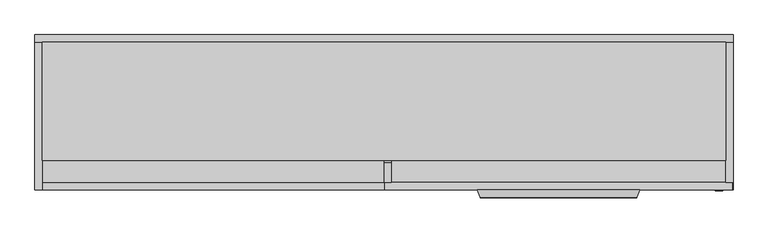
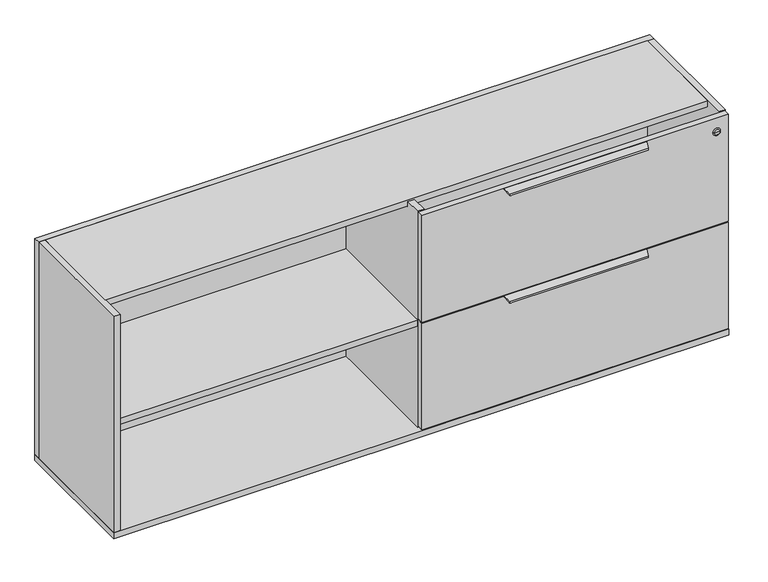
"""IFC4 building model written with IfcOpenShell, lengths in millimetres: furniture geometry, Haworth_BeHold_Modular_AttachedCredenza_StorageEnd : 2H - 72w - 36w Open - Proud Back."""

import ifcopenshell
import ifcopenshell.guid

model = None  # the IFC model being written
_history = None  # IfcOwnerHistory: only IFC2X3 demands one
_inside = {}  # id of a spatial element -> (the spatial element, [elements in it])
_under = {}  # id of a project, library or spatial element -> (it, [spatial elements below it])
_declared = {}  # id of a project -> (the project, [libraries it declares])
_typed = {}  # id of a type object -> (the type object, [elements of that type])
_made_of = {}  # id of a material, layer set ... -> (it, [elements and type objects made of it])


def new_model(schema):
    """Start an empty IFC model of exactly this schema.

    Asked for "IFC4X3", IfcOpenShell would pick the latest addendum, in which some entities
    have other attributes; the version numbers below select the first issue.
    IFC2X3 requires an IfcOwnerHistory on every rooted entity: one is made here for all.
    """
    global model, _history
    if schema == "IFC4X3":
        model = ifcopenshell.file(schema_version=(4, 3, 0, 0))
    else:
        model = ifcopenshell.file(schema=schema)
    _inside.clear()
    _under.clear()
    _declared.clear()
    _typed.clear()
    _made_of.clear()
    _history = None
    if model.schema == "IFC2X3":
        org = make("IfcOrganization", Name="unknown")
        user = make(
            "IfcPersonAndOrganization",
            ThePerson=make("IfcPerson", FamilyName="unknown"),
            TheOrganization=org,
        )
        app = make(
            "IfcApplication",
            ApplicationDeveloper=org,
            Version="unknown",
            ApplicationFullName="unknown",
            ApplicationIdentifier="unknown",
        )
        _history = make(
            "IfcOwnerHistory",
            OwningUser=user,
            OwningApplication=app,
            ChangeAction="ADDED",
            CreationDate=0,
        )
    return model


def make(cls, **values):
    """One entity of the class cls with the attributes given. An attribute that is None is left unset."""
    return model.create_entity(
        cls, **{name: value for name, value in values.items() if value is not None}
    )


def rooted(cls, **values):
    """An entity with a GlobalId (a new one), such as an element, a storey or a relation."""
    return make(cls, GlobalId=ifcopenshell.guid.new(), OwnerHistory=_history, **values)


def si_unit(unit_type, name, prefix=None):
    """IfcSIUnit, for example si_unit("LENGTHUNIT", "METRE", prefix="MILLI")."""
    return make("IfcSIUnit", UnitType=unit_type, Prefix=prefix, Name=name)


def assignment(units):
    """IfcUnitAssignment: the units of a project."""
    return None if units is None else make("IfcUnitAssignment", Units=units)


def point(xyz):
    """IfcCartesianPoint."""
    return None if xyz is None else make("IfcCartesianPoint", Coordinates=xyz)


def direction(xyz):
    """IfcDirection."""
    return None if xyz is None else make("IfcDirection", DirectionRatios=xyz)


def frame(location, z_axis=None, x_axis=None):
    """IfcAxis2Placement3D, a coordinate frame: its origin and axes. An axis left out is left unset."""
    return make(
        "IfcAxis2Placement3D",
        Location=point(location),
        Axis=direction(z_axis),
        RefDirection=direction(x_axis),
    )


def frame_2d(location, x_axis=None):
    """IfcAxis2Placement2D, a coordinate frame in the plane: its origin and x axis."""
    return make(
        "IfcAxis2Placement2D", Location=point(location), RefDirection=direction(x_axis)
    )


def origin():
    """The frame at (0, 0, 0) with its axes left unset."""
    return frame((0.0, 0.0, 0.0))


def origin_with_axes():
    """The frame at (0, 0, 0) with the z axis (0, 0, 1) and the x axis (1, 0, 0) written out."""
    return frame((0.0, 0.0, 0.0), z_axis=(0.0, 0.0, 1.0), x_axis=(1.0, 0.0, 0.0))


def place(relative_to, where):
    """IfcLocalPlacement: puts the frame where relative to a parent placement (None: the world)."""
    return make(
        "IfcLocalPlacement", PlacementRelTo=relative_to, RelativePlacement=where
    )


def context(
    kind, dimensions, precision=None, world=None, true_north=None, identifier=None
):
    """IfcGeometricRepresentationContext, for example the 3D "Model" context."""
    return make(
        "IfcGeometricRepresentationContext",
        ContextIdentifier=identifier,
        ContextType=kind,
        CoordinateSpaceDimension=dimensions,
        Precision=precision,
        WorldCoordinateSystem=world,
        TrueNorth=true_north,
    )


def project(units=None, contexts=None):
    """IfcProject with its units and contexts."""
    return rooted(
        "IfcProject",
        Name="project",
        RepresentationContexts=contexts,
        UnitsInContext=assignment(units),
    )


def spatial(cls, under=None, at=None, **own):
    """A site, building, storey or space (cls), placed at a placement, below another one or the project."""
    s = rooted(cls, ObjectPlacement=at, **own)
    if under is not None:
        _under.setdefault(under.id(), (under, []))[1].append(s)
    return s


def polyline(points):
    """IfcPolyline through the points."""
    return make("IfcPolyline", Points=[point(p) for p in points])


def circle_curve(where, radius):
    """IfcCircle in the frame where."""
    return make("IfcCircle", Position=where, Radius=radius)


def ellipse_curve(where, semi_axis1, semi_axis2):
    """IfcEllipse in the frame where."""
    return make(
        "IfcEllipse", Position=where, SemiAxis1=semi_axis1, SemiAxis2=semi_axis2
    )


def trimmed(basis, trim1, trim2, sense, master):
    """IfcTrimmedCurve: the piece of a basis curve between two trims."""
    return make(
        "IfcTrimmedCurve",
        BasisCurve=basis,
        Trim1=trim1,
        Trim2=trim2,
        SenseAgreement=sense,
        MasterRepresentation=master,
    )


def segment(curve, same_sense, transition):
    """IfcCompositeCurveSegment."""
    return make(
        "IfcCompositeCurveSegment",
        Transition=transition,
        SameSense=same_sense,
        ParentCurve=curve,
    )


def composite_curve(segments, self_intersect=None):
    """IfcCompositeCurve: segments joined end to end."""
    return make("IfcCompositeCurve", Segments=segments, SelfIntersect=self_intersect)


def outline(outer, holes=None, kind="AREA"):
    """IfcArbitraryClosedProfileDef: a profile drawn as a closed curve; with holes, ...WithVoids."""
    if holes is None:
        return make("IfcArbitraryClosedProfileDef", ProfileType=kind, OuterCurve=outer)
    return make(
        "IfcArbitraryProfileDefWithVoids",
        ProfileType=kind,
        OuterCurve=outer,
        InnerCurves=holes,
    )


def extrude(swept, where, along, depth):
    """IfcExtrudedAreaSolid: the profile swept, set in the frame where, extruded along a direction by depth."""
    return make(
        "IfcExtrudedAreaSolid",
        SweptArea=swept,
        Position=where,
        ExtrudedDirection=direction(along),
        Depth=depth,
    )


def shape(context_of_items, identifier, shape_type, items):
    """IfcShapeRepresentation: the items that make up one representation, for example the "Body"."""
    return make(
        "IfcShapeRepresentation",
        ContextOfItems=context_of_items,
        RepresentationIdentifier=identifier,
        RepresentationType=shape_type,
        Items=items,
    )


def source(mapping_origin, context_of_items, identifier, shape_type, items):
    """IfcRepresentationMap: a shape defined once, which mapped items show again and again."""
    return make(
        "IfcRepresentationMap",
        MappingOrigin=mapping_origin,
        MappedRepresentation=shape(context_of_items, identifier, shape_type, items),
    )


def transform(
    local_origin,
    x_axis=None,
    y_axis=None,
    z_axis=None,
    scale=None,
    scale2=None,
    scale3=None,
    uniform=True,
):
    """IfcCartesianTransformationOperator3D, or its non-uniform kind. x_axis, y_axis, z_axis: its Axis1, 2, 3."""
    if uniform:
        return make(
            "IfcCartesianTransformationOperator3D",
            Axis1=direction(x_axis),
            Axis2=direction(y_axis),
            LocalOrigin=point(local_origin),
            Scale=scale,
            Axis3=direction(z_axis),
        )
    return make(
        "IfcCartesianTransformationOperator3DnonUniform",
        Axis1=direction(x_axis),
        Axis2=direction(y_axis),
        LocalOrigin=point(local_origin),
        Scale=scale,
        Axis3=direction(z_axis),
        Scale2=scale2,
        Scale3=scale3,
    )


def mapped(mapping_source, mapping_target):
    """IfcMappedItem: shows the shape of a source again, moved by a transform."""
    return make(
        "IfcMappedItem", MappingSource=mapping_source, MappingTarget=mapping_target
    )


def made_of(thing, what):
    """Note that an element or type object is made of a material, layer set ...; save() writes the relation."""
    if what is not None:
        _made_of.setdefault(what.id(), (what, []))[1].append(thing)
    return thing


def element(
    cls,
    number,
    at=None,
    inside=None,
    cuts=None,
    type_object=None,
    material=None,
    context=None,
    identifier="Body",
    shape_type=None,
    held_by="IfcProductDefinitionShape",
    body=None,
    shapes=None,
    **own,
):
    """One element of the class cls, such as IfcWall. Its Tag is "e" and its number.

    at: its placement. inside: the storey or other place that contains it. cuts: it is an
    opening in that element (IfcRelVoidsElement). A single representation is given by context,
    identifier, shape_type and body (its items); several are given by shapes. held_by: the class
    of the entity that holds the representations. save() writes the other relations.
    """
    e = rooted(cls, Tag="e%d" % number, ObjectPlacement=at, **own)
    if body is not None:
        shapes = [shape(context, identifier, shape_type, body)]
    if shapes is not None:
        e.Representation = make(held_by, Representations=shapes)
    if inside is not None:
        _inside.setdefault(inside.id(), (inside, []))[1].append(e)
    if cuts is not None:
        rooted(
            "IfcRelVoidsElement", RelatingBuildingElement=cuts, RelatedOpeningElement=e
        )
    if type_object is not None:
        _typed.setdefault(type_object.id(), (type_object, []))[1].append(e)
    return made_of(e, material)


def aggregate(whole, parts):
    """IfcRelAggregates: a whole, such as a stair, and the parts it consists of."""
    return rooted("IfcRelAggregates", RelatingObject=whole, RelatedObjects=parts)


def save(model, path):
    """Write the relations noted so far, then the file.

    IfcRelAggregates (storeys below a building ...), IfcRelContainedInSpatialStructure (elements
    in a storey), IfcRelDefinesByType, IfcRelAssociatesMaterial and IfcRelDeclares: one each for
    every whole, place, type object, material and project.
    """
    for whole, parts in _under.values():
        aggregate(whole, parts)
    for where, things in _inside.values():
        rooted(
            "IfcRelContainedInSpatialStructure",
            RelatedElements=things,
            RelatingStructure=where,
        )
    for kind, things in _typed.values():
        rooted("IfcRelDefinesByType", RelatedObjects=things, RelatingType=kind)
    for what, things in _made_of.values():
        rooted("IfcRelAssociatesMaterial", RelatedObjects=things, RelatingMaterial=what)
    for by, libraries in _declared.values():
        rooted("IfcRelDeclares", RelatingContext=by, RelatedDefinitions=libraries)
    model.write(path)


def plane_surface(at):
    """IfcPlane: the flat surface through the origin of the frame at, square to its z axis."""
    return make("IfcPlane", Position=at)


def cylinder_surface(at, radius):
    """IfcCylindricalSurface: all points at the distance radius from the z axis of the frame at."""
    return make("IfcCylindricalSurface", Position=at, Radius=radius)


def revolved_surface(curve, axis_point, axis_direction):
    """IfcSurfaceOfRevolution: the curve turned about the line through axis_point along axis_direction."""
    return make(
        "IfcSurfaceOfRevolution",
        SweptCurve=make("IfcArbitraryOpenProfileDef", ProfileType="CURVE", Curve=curve),
        AxisPosition=make("IfcAxis1Placement", Location=point(axis_point), Axis=direction(axis_direction)),
    )


def advanced_brep(points, edges, surfaces, faces):
    """IfcAdvancedBrep: a solid bounded by faces that lie on surfaces and meet in shared edges.

    An edge is (start, end): straight between two places in points (the first is 0);
    or (start, end, curve); or (start, end, curve, False) where it runs against its curve.
    A face is (place in surfaces, loops), or (place, loops, False) where it looks against
    its surface's normal. A loop lists edges by number (the first is 1), with a minus sign
    where the edge is run from its end to its start. The first loop is the outer one.
    """
    corners = [point(p) for p in points]
    vertices = [make("IfcVertexPoint", VertexGeometry=c) for c in corners]
    made = []
    for start, end, *more in edges:
        made.append(
            make(
                "IfcEdgeCurve",
                EdgeStart=vertices[start],
                EdgeEnd=vertices[end],
                EdgeGeometry=more[0] if more else make("IfcPolyline", Points=[corners[start], corners[end]]),
                SameSense=more[1] if len(more) > 1 else True,
            )
        )
    hull = []
    for where, loops, *sense in faces:
        bounds = []
        for j, loop in enumerate(loops):
            ring = [make("IfcOrientedEdge", EdgeElement=made[abs(k) - 1], Orientation=k > 0) for k in loop]
            bounds.append(
                make(
                    "IfcFaceOuterBound" if j == 0 else "IfcFaceBound",
                    Bound=make("IfcEdgeLoop", EdgeList=ring),
                    Orientation=True,
                )
            )
        hull.append(make("IfcAdvancedFace", Bounds=bounds, FaceSurface=surfaces[where], SameSense=sense[0] if sense else True))
    return make("IfcAdvancedBrep", Outer=make("IfcClosedShell", CfsFaces=hull))


def furniture_dbf79f29(model_context):
    return source(origin(), model_context, "Body", "SolidModel", [
        advanced_brep(
        [(87.6158447, -495.3, 706.6279922), (513.0658447, -495.3, 706.6279922), (506.4608973, -513.44585, 696.4887354), (94.220792, -513.44585, 696.4887354), (87.6158447, -495.3, 708.025), (513.0658447, -495.3, 708.025), (94.9712116, -515.5074865, 701.1098982), (505.7104778, -515.5074865, 701.1098982)],
        [
            (0, 1),
            (1, 2),
            (2, 3),
            (3, 0),
            (0, 4),
            (4, 5),
            (5, 1),
            (4, 6),
            (6, 7),
            (7, 5),
            (2, 7, ellipse_curve(frame((506.00986, -514.6849901, 698.7063783), z_axis=(-0.9396859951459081, 0.3420383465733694, 0.0), x_axis=(0.34203834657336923, 0.9396859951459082, 0.0)), 2.7034093, 2.5403559)),
            (6, 3, ellipse_curve(frame((94.6718293, -514.6849901, 698.7063783), z_axis=(0.9396859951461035, 0.34203834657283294, 0.0), x_axis=(0.3420383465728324, -0.9396859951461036, 0.0)), 2.7034093, 2.5403559)),
        ],
        [
            plane_surface(frame((513.0658447, -513.44585, 696.4887354), z_axis=(0.0, 0.4877820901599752, -0.8729654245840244), x_axis=(-1.0, 0.0, 0.0))),
            plane_surface(frame((513.0658447, -495.3, 706.6279922), z_axis=(0.0, 1.0, 0.0), x_axis=(-1.0, 0.0, 0.0))),
            plane_surface(frame((513.0658447, -495.3, 708.025), z_axis=(0.0, -0.32377211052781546, 0.9461350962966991), x_axis=(-1.0, 0.0, 0.0))),
            cylinder_surface(frame((513.0658447, -514.6849901, 698.7063783), z_axis=(1.0, 0.0, 0.0), x_axis=(0.0, -1.0, 0.0)), 2.5403559),
            plane_surface(frame((96.1871678, -518.8480975, 720.725), z_axis=(-0.9396859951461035, -0.34203834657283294, 0.0), x_axis=(0.0, 0.0, -1.0))),
            plane_surface(frame((513.0658447, -495.3, 720.725), z_axis=(0.9396859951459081, -0.3420383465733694, 0.0), x_axis=(0.0, 0.0, -1.0))),
        ],
        [
            (0, [[1, 2, 3, 4]]),
            (1, [[-1, 5, 6, 7]]),
            (2, [[-6, 8, 9, 10]]),
            (3, [[-3, 11, -9, 12]]),
            (4, [[-4, -12, -8, -5]]),
            (5, [[-2, -7, -10, -11]]),
        ],
    ),
        advanced_brep(
        [(713.0892944, -498.4742249, 665.95625), (728.967395, -498.4742249, 665.95625), (721.0283447, -498.4742249, 665.95625), (709.9150695, -495.3, 665.95625), (732.1416198, -495.3, 665.95625), (721.0283447, -495.3, 665.95625)],
        [
            (0, 1, circle_curve(frame((721.0283447, -498.4742249, 665.95625), z_axis=(0.0, -1.0, 0.0), x_axis=(1.0, 0.0, 0.0)), 7.9390503)),
            (1, 2),
            (2, 0),
            (1, 0, circle_curve(frame((721.0283447, -498.4742249, 665.95625), z_axis=(0.0, -1.0, 0.0), x_axis=(1.0, 0.0, 0.0)), 7.9390503)),
            (3, 4, circle_curve(frame((721.0283447, -495.3, 665.95625), z_axis=(0.0, -1.0, 0.0), x_axis=(1.0, 0.0, 0.0)), 11.1132751)),
            (4, 1, circle_curve(frame((728.967395, -495.3, 665.95625), z_axis=(0.0, 0.0, -1.0), x_axis=(-1.0, 0.0, 0.0)), 3.1742249)),
            (0, 3, circle_curve(frame((713.0892944, -495.3, 665.95625), z_axis=(0.0, 0.0, -1.0), x_axis=(1.0, 0.0, 0.0)), 3.1742249)),
            (4, 3, circle_curve(frame((721.0283447, -495.3, 665.95625), z_axis=(0.0, -1.0, 0.0), x_axis=(1.0, 0.0, 0.0)), 11.1132751)),
            (5, 4),
            (3, 5),
        ],
        [
            plane_surface(frame((721.0283447, -498.4742249, 665.95625), z_axis=(0.0, -1.0, 0.0), x_axis=(1.0, 0.0, 0.0))),
            revolved_surface(trimmed(ellipse_curve(frame((728.967395, -495.3, 665.95625), z_axis=(0.0, 0.0, 1.0), x_axis=(-1.0, 0.0, 0.0)), 3.1742249, 3.1742249), [point((728.967395, -498.4742249, 665.95625))], [point((732.1416198, -495.3, 665.95625))], True, "CARTESIAN"), (721.0283447, -481.3109205, 665.95625), (0.0, 1.0, 0.0)),
            plane_surface(frame((721.0283447, -495.3, 665.95625), z_axis=(0.0, 1.0, 0.0), x_axis=(1.0, 0.0, 0.0))),
        ],
        [
            (0, [[1, 2, 3]]),
            (0, [[4, -3, -2]]),
            (1, [[5, 6, -1, 7]]),
            (1, [[8, -7, -4, -6]]),
            (2, [[9, -5, 10]]),
            (2, [[-10, -8, -9]]),
        ],
    ),
        extrude(outline(polyline([(-155.2716553, -476.25), (755.9533447, -476.25), (755.9533447, -495.3), (-155.2716553, -495.3), (-155.2716553, -476.25)])), frame((0.0, 0.0, 373.0625), z_axis=(0.0, 0.0, 1.0), x_axis=(1.0, 0.0, 0.0)), (0.0, 0.0, 1.0), 334.9625),
        advanced_brep(
        [(87.6158447, -495.3, 368.4904922), (513.0658447, -495.3, 368.4904922), (506.4608973, -513.44585, 358.3512354), (94.220792, -513.44585, 358.3512354), (87.6158447, -495.3, 369.8875), (513.0658447, -495.3, 369.8875), (94.9712116, -515.5074865, 362.9723982), (505.7104778, -515.5074865, 362.9723982)],
        [
            (0, 1),
            (1, 2),
            (2, 3),
            (3, 0),
            (0, 4),
            (4, 5),
            (5, 1),
            (4, 6),
            (6, 7),
            (7, 5),
            (2, 7, ellipse_curve(frame((506.00986, -514.6849901, 360.5688783), z_axis=(-0.9396859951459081, 0.3420383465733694, 0.0), x_axis=(0.34203834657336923, 0.9396859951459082, 0.0)), 2.7034093, 2.5403559)),
            (6, 3, ellipse_curve(frame((94.6718293, -514.6849901, 360.5688783), z_axis=(0.9396859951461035, 0.34203834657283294, 0.0), x_axis=(0.3420383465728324, -0.9396859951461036, 0.0)), 2.7034093, 2.5403559)),
        ],
        [
            plane_surface(frame((513.0658447, -513.44585, 358.3512354), z_axis=(0.0, 0.4877820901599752, -0.8729654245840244), x_axis=(-1.0, 0.0, 0.0))),
            plane_surface(frame((513.0658447, -495.3, 368.4904922), z_axis=(0.0, 1.0, 0.0), x_axis=(-1.0, 0.0, 0.0))),
            plane_surface(frame((513.0658447, -495.3, 369.8875), z_axis=(0.0, -0.32377211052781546, 0.9461350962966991), x_axis=(-1.0, 0.0, 0.0))),
            cylinder_surface(frame((513.0658447, -514.6849901, 360.5688783), z_axis=(1.0, 0.0, 0.0), x_axis=(0.0, -1.0, 0.0)), 2.5403559),
            plane_surface(frame((96.1871678, -518.8480975, 382.5875), z_axis=(-0.9396859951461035, -0.34203834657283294, 0.0), x_axis=(0.0, 0.0, -1.0))),
            plane_surface(frame((513.0658447, -495.3, 382.5875), z_axis=(0.9396859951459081, -0.3420383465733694, 0.0), x_axis=(0.0, 0.0, -1.0))),
        ],
        [
            (0, [[1, 2, 3, 4]]),
            (1, [[-1, 5, 6, 7]]),
            (2, [[-6, 8, 9, 10]]),
            (3, [[-3, 11, -9, 12]]),
            (4, [[-4, -12, -8, -5]]),
            (5, [[-2, -7, -10, -11]]),
        ],
    ),
        extrude(outline(polyline([(-155.2716553, -476.25), (755.9533447, -476.25), (755.9533447, -495.3), (-155.2716553, -495.3), (-155.2716553, -476.25)])), frame((0.0, 0.0, 34.925), z_axis=(0.0, 0.0, 1.0), x_axis=(1.0, 0.0, 0.0)), (0.0, 0.0, 1.0), 334.9625),
        extrude(outline(polyline([(-425.45, 692.15), (-107.95, 692.15), (-107.95, 31.75), (-476.25, 31.75), (-476.25, 711.2), (-425.45, 711.2), (-425.45, 692.15)])), frame((-156.8591553, 0.0, 0.0), z_axis=(1.0, 0.0, 0.0), x_axis=(0.0, 1.0, 0.0)), (0.0, 0.0, 1.0), 19.05),
        extrude(outline(polyline([(-156.8591553, -107.95), (-156.8591553, -476.25), (-1052.2091553, -476.25), (-1052.2091553, -107.95), (-156.8591553, -107.95)])), frame((0.0, 0.0, 350.8375), z_axis=(0.0, 0.0, 1.0), x_axis=(1.0, 0.0, 0.0)), (0.0, 0.0, 1.0), 19.05),
        extrude(outline(polyline([(738.4908447, -107.95), (738.4908447, -419.1), (-1052.2091553, -419.1), (-1052.2091553, -107.95), (738.4908447, -107.95)])), frame((0.0, 0.0, 692.15), z_axis=(0.0, 0.0, 1.0), x_axis=(1.0, 0.0, 0.0)), (0.0, 0.0, 1.0), 19.05),
        extrude(outline(polyline([(757.5408447, -107.95), (-1071.2591553, -107.95), (-1071.2591553, -88.9), (757.5408447, -88.9), (757.5408447, -107.95)])), frame((0.0, 0.0, 31.75), z_axis=(0.0, 0.0, 1.0), x_axis=(1.0, 0.0, 0.0)), (0.0, 0.0, 1.0), 679.45),
        extrude(outline(polyline([(757.5408447, -107.95), (757.5408447, -476.25), (738.4908447, -476.25), (738.4908447, -107.95), (757.5408447, -107.95)])), frame((0.0, 0.0, 31.75), z_axis=(0.0, 0.0, 1.0), x_axis=(1.0, 0.0, 0.0)), (0.0, 0.0, 1.0), 679.45),
        extrude(outline(polyline([(-1071.2591553, -495.3), (-1071.2591553, -107.95), (-1052.2091553, -107.95), (-1052.2091553, -495.3), (-1071.2591553, -495.3)])), frame((0.0, 0.0, 31.75), z_axis=(0.0, 0.0, 1.0), x_axis=(1.0, 0.0, 0.0)), (0.0, 0.0, 1.0), 679.45),
        extrude(outline(polyline([(757.5408447, -88.9), (757.5408447, -495.3), (-1071.2591553, -495.3), (-1071.2591553, -88.9), (757.5408447, -88.9)])), frame((0.0, 0.0, 12.7), z_axis=(0.0, 0.0, 1.0), x_axis=(1.0, 0.0, 0.0)), (0.0, 0.0, 1.0), 19.05),
        extrude(outline(composite_curve([segment(polyline([(738.4908447, -114.3), (738.4908447, -158.7999969)]), True, "CONTINUOUS"), segment(trimmed(circle_curve(frame_2d((732.1408447, -158.7999969)), 6.35), [point((738.4908447, -158.7999969))], [point((732.1408447, -165.1499969))], False, "CARTESIAN"), True, "CONTINUOUS"), segment(polyline([(732.1408447, -165.1499969), (720.6907684, -165.1499969), (681.2908477, -125.7500763), (681.2908477, -114.3)]), True, "CONTINUOUS"), segment(trimmed(circle_curve(frame_2d((687.6408477, -114.3)), 6.35), [point((681.2908477, -114.3))], [point((687.6408477, -107.95))], False, "CARTESIAN"), True, "CONTINUOUS"), segment(polyline([(687.6408477, -107.95), (732.1408447, -107.95)]), True, "CONTINUOUS"), segment(trimmed(circle_curve(frame_2d((732.1408447, -114.3)), 6.35), [point((732.1408447, -107.95))], [point((738.4908447, -114.3))], False, "CARTESIAN"), True, "CONTINUOUS")], self_intersect=False)), origin_with_axes(), (0.0, 0.0, 1.0), 12.7),
        extrude(outline(composite_curve([segment(trimmed(circle_curve(frame_2d((732.1408447, -469.9)), 6.35), [point((738.4908447, -469.9))], [point((732.1408447, -476.25))], False, "CARTESIAN"), True, "CONTINUOUS"), segment(polyline([(732.1408447, -476.25), (687.6408477, -476.25)]), True, "CONTINUOUS"), segment(trimmed(circle_curve(frame_2d((687.6408477, -469.9)), 6.35), [point((687.6408477, -476.25))], [point((681.2908477, -469.9))], False, "CARTESIAN"), True, "CONTINUOUS"), segment(polyline([(681.2908477, -469.9), (681.2908477, -458.4499237), (720.6907684, -419.0500031), (732.1408447, -419.0500031)]), True, "CONTINUOUS"), segment(trimmed(circle_curve(frame_2d((732.1408447, -425.4000031)), 6.35), [point((732.1408447, -419.0500031))], [point((738.4908447, -425.4000031))], False, "CARTESIAN"), True, "CONTINUOUS"), segment(polyline([(738.4908447, -425.4000031), (738.4908447, -469.9)]), True, "CONTINUOUS")], self_intersect=False)), origin_with_axes(), (0.0, 0.0, 1.0), 12.7),
        extrude(outline(composite_curve([segment(trimmed(circle_curve(frame_2d((-1045.8591553, -114.3)), 6.35), [point((-1052.2091553, -114.3))], [point((-1045.8591553, -107.95))], False, "CARTESIAN"), True, "CONTINUOUS"), segment(polyline([(-1045.8591553, -107.95), (-1001.3591584, -107.95)]), True, "CONTINUOUS"), segment(trimmed(circle_curve(frame_2d((-1001.3591584, -114.3)), 6.35), [point((-1001.3591584, -107.95))], [point((-995.0091584, -114.3))], False, "CARTESIAN"), True, "CONTINUOUS"), segment(polyline([(-995.0091584, -114.3), (-995.0091584, -125.7500763), (-1034.409079, -165.1499969), (-1045.8591553, -165.1499969)]), True, "CONTINUOUS"), segment(trimmed(circle_curve(frame_2d((-1045.8591553, -158.7999969)), 6.35), [point((-1045.8591553, -165.1499969))], [point((-1052.2091553, -158.7999969))], False, "CARTESIAN"), True, "CONTINUOUS"), segment(polyline([(-1052.2091553, -158.7999969), (-1052.2091553, -114.3)]), True, "CONTINUOUS")], self_intersect=False)), origin_with_axes(), (0.0, 0.0, 1.0), 12.7),
        extrude(outline(composite_curve([segment(polyline([(-1052.2091553, -469.9), (-1052.2091553, -425.4000031)]), True, "CONTINUOUS"), segment(trimmed(circle_curve(frame_2d((-1045.8591553, -425.4000031)), 6.35), [point((-1052.2091553, -425.4000031))], [point((-1045.8591553, -419.0500031))], False, "CARTESIAN"), True, "CONTINUOUS"), segment(polyline([(-1045.8591553, -419.0500031), (-1034.409079, -419.0500031), (-995.0091584, -458.4499237), (-995.0091584, -469.9)]), True, "CONTINUOUS"), segment(trimmed(circle_curve(frame_2d((-1001.3591584, -469.9)), 6.35), [point((-995.0091584, -469.9))], [point((-1001.3591584, -476.25))], False, "CARTESIAN"), True, "CONTINUOUS"), segment(polyline([(-1001.3591584, -476.25), (-1045.8591553, -476.25)]), True, "CONTINUOUS"), segment(trimmed(circle_curve(frame_2d((-1045.8591553, -469.9)), 6.35), [point((-1045.8591553, -476.25))], [point((-1052.2091553, -469.9))], False, "CARTESIAN"), True, "CONTINUOUS")], self_intersect=False)), origin_with_axes(), (0.0, 0.0, 1.0), 12.7),
    ])


if __name__ == "__main__":
    model = new_model("IFC4")
    model_context = context("Model", 3, world=origin())
    ifc_project = project(units=[si_unit("LENGTHUNIT", "METRE", prefix="MILLI")], contexts=[model_context])
    site = spatial("IfcSite", under=ifc_project)
    building = spatial("IfcBuilding", under=site)
    placement = place(None, origin())
    furniture_shape = furniture_dbf79f29(model_context)
    element("IfcFurniture", 1, ObjectType="Haworth_BeHold_Modular_AttachedCredenza_StorageEnd : 2H - 72w - 36w Open - Proud Back", at=placement, inside=building, context=model_context, shape_type="MappedRepresentation", body=[
        mapped(furniture_shape, transform((0.0, 0.0, 0.0), x_axis=(1.0, 0.0, 0.0), y_axis=(0.0, 1.0, 0.0), z_axis=(0.0, 0.0, 1.0))),
    ])
    save(model, "model.ifc")
